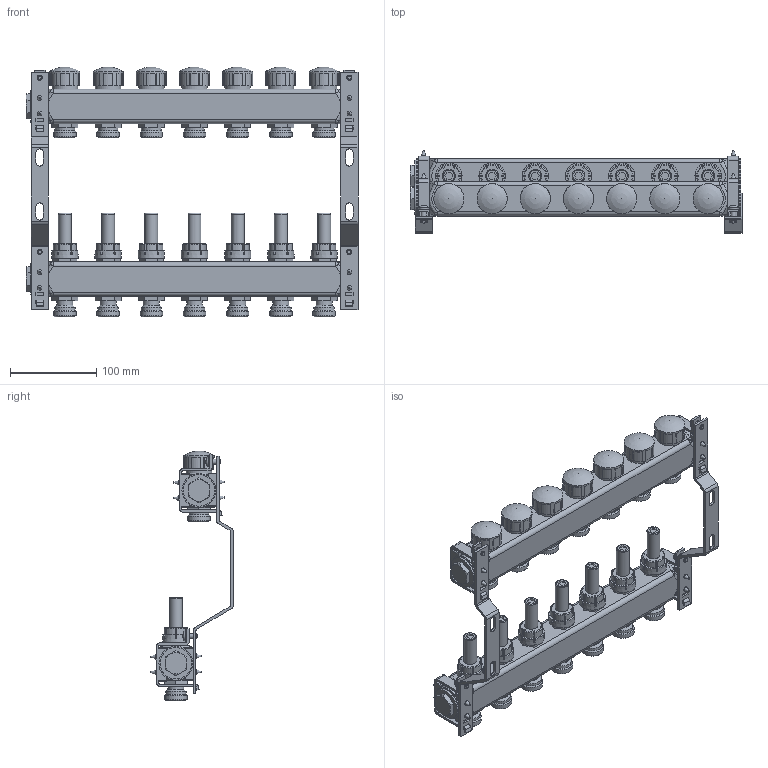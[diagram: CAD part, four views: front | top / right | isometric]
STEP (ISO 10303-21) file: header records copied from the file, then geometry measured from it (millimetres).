
FILE_DESCRIPTION(('STEP AP203'), '1');
FILE_NAME('VTc.584.EMNX.0607', '', ('UNSPECIFIED'), ('UNSPECIFIED'), 'C3D Converter', 'C3D Toolkit', '');
FILE_SCHEMA(('CONFIG_CONTROL_DESIGN'));
Length unit declared in the file: millimetre
Bounding box: 384.2 x 95.7 x 289.2 mm (x, y, z)
Volume: 1635164.7 mm3; surface area: 244801.3 mm2
Topology: 1 solids, 1 shells, 1491 faces, 4103 edges, 2657 vertices
Faces by surface type: plane 924, cylinder 331, torus 109, cone 84, bspline 36, sphere 7
Full cylindrical faces by diameter (mm): 5.4 x16, 6 x8, 12 x4, 15 x7, 18.4 x7, 22.9 x7, 23.5 x7, 25.9 x7, 26 x7, 29.5 x7, 34.9 x7, 35.3 x2, 36.5 x2, 39.3 x4
Entity records: 58973 total; most frequent: CARTESIAN_POINT 21947, ORIENTED_EDGE 7780, DIRECTION 7384, EDGE_CURVE 3890, VERTEX_POINT 2646, AXIS2_PLACEMENT_3D 2534, LINE 2316, VECTOR 2316
